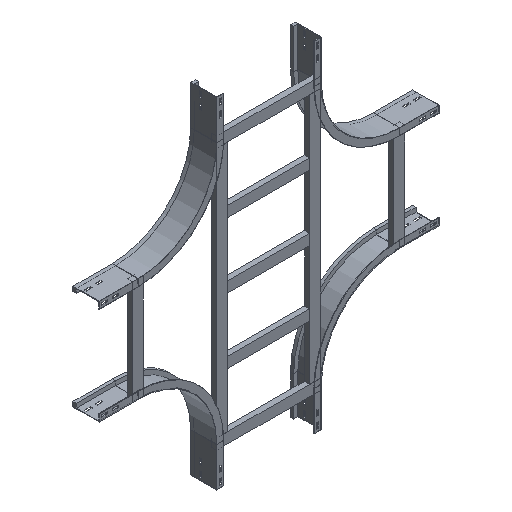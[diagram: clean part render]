
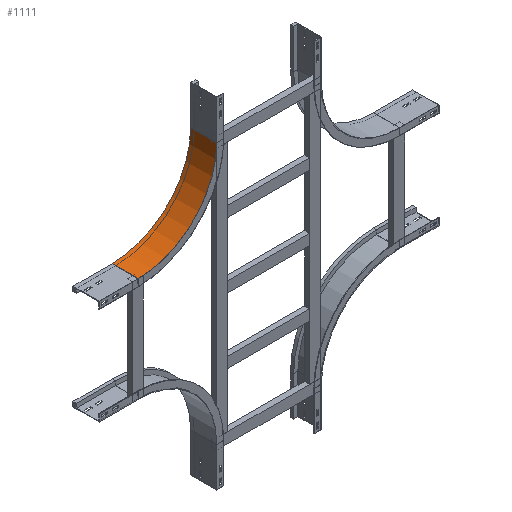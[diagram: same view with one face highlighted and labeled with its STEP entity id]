
A CAD part, isometric view. The second image highlights one B-rep face of the part: STEP entity #1111.
In plain terms, the highlighted cylindrical face has radius 300 mm (diameter 600 mm), a partial arc.
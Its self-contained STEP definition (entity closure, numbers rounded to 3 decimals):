
#77 = DIRECTION ( 'NONE',  ( -1., 0., 0. ) ) ;
#100 = DIRECTION ( 'NONE',  ( 0., -1., 0. ) ) ;
#131 = DIRECTION ( 'NONE',  ( 0., 1., 0. ) ) ;
#136 = CARTESIAN_POINT ( 'NONE',  ( 300., 0., -450. ) ) ;
#291 = DIRECTION ( 'NONE',  ( 0., 1., 0. ) ) ;
#402 = EDGE_CURVE ( 'NONE', #508, #1382, #1437, .T. ) ;
#508 = VERTEX_POINT ( 'NONE', #1091 ) ;
#642 = VECTOR ( 'NONE', #131, 1000. ) ;
#657 = CARTESIAN_POINT ( 'NONE',  ( 0., 0., -150. ) ) ;
#705 = CARTESIAN_POINT ( 'NONE',  ( 0., 0., -150. ) ) ;
#707 = VECTOR ( 'NONE', #291, 1000. ) ;
#768 = DIRECTION ( 'NONE',  ( 0., -1., 0. ) ) ;
#828 = AXIS2_PLACEMENT_3D ( 'NONE', #1054, #100, #77 ) ;
#864 = EDGE_CURVE ( 'NONE', #2169, #1253, #1991, .T. ) ;
#891 = EDGE_CURVE ( 'NONE', #1253, #1382, #1269, .T. ) ;
#1054 = CARTESIAN_POINT ( 'NONE',  ( 300., 0., -150. ) ) ;
#1078 = CARTESIAN_POINT ( 'NONE',  ( 300., 0., -450. ) ) ;
#1091 = CARTESIAN_POINT ( 'NONE',  ( 0., 100., -150. ) ) ;
#1110 = FACE_OUTER_BOUND ( 'NONE', #1242, .T. ) ;
#1111 = ADVANCED_FACE ( 'NONE', ( #1110 ), #1879, .F. ) ;
#1161 = DIRECTION ( 'NONE',  ( 0., -1., 0. ) ) ;
#1222 = CARTESIAN_POINT ( 'NONE',  ( 300., 100., -150. ) ) ;
#1242 = EDGE_LOOP ( 'NONE', ( #2045, #1489, #2457, #1391 ) ) ;
#1253 = VERTEX_POINT ( 'NONE', #136 ) ;
#1269 = LINE ( 'NONE', #1078, #707 ) ;
#1382 = VERTEX_POINT ( 'NONE', #1744 ) ;
#1391 = ORIENTED_EDGE ( 'NONE', *, *, #891, .T. ) ;
#1437 = CIRCLE ( 'NONE', #1708, 300. ) ;
#1489 = ORIENTED_EDGE ( 'NONE', *, *, #1779, .F. ) ;
#1546 = DIRECTION ( 'NONE',  ( -1., 0., 0. ) ) ;
#1626 = LINE ( 'NONE', #657, #642 ) ;
#1708 = AXIS2_PLACEMENT_3D ( 'NONE', #1222, #768, #1546 ) ;
#1744 = CARTESIAN_POINT ( 'NONE',  ( 300., 100., -450. ) ) ;
#1779 = EDGE_CURVE ( 'NONE', #2169, #508, #1626, .T. ) ;
#1867 = AXIS2_PLACEMENT_3D ( 'NONE', #1927, #1161, #1900 ) ;
#1879 = CYLINDRICAL_SURFACE ( 'NONE', #1867, 300. ) ;
#1900 = DIRECTION ( 'NONE',  ( 0., 0., -1. ) ) ;
#1927 = CARTESIAN_POINT ( 'NONE',  ( 300., 0., -150. ) ) ;
#1991 = CIRCLE ( 'NONE', #828, 300. ) ;
#2045 = ORIENTED_EDGE ( 'NONE', *, *, #402, .F. ) ;
#2169 = VERTEX_POINT ( 'NONE', #705 ) ;
#2457 = ORIENTED_EDGE ( 'NONE', *, *, #864, .T. ) ;
